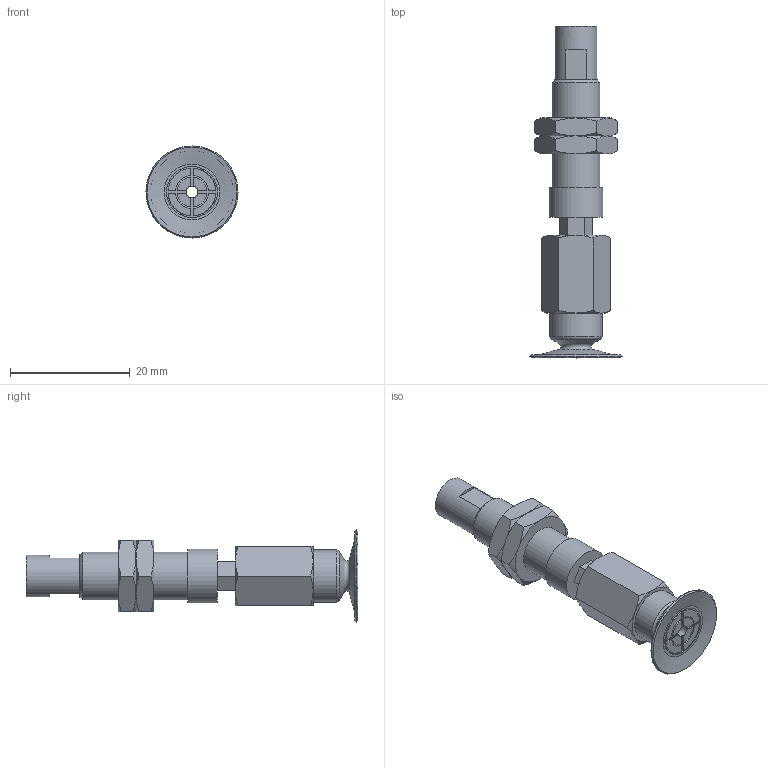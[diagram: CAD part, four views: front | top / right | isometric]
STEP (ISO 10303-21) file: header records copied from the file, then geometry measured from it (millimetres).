
FILE_DESCRIPTION(('STEP AP203'),'1');
FILE_NAME('.stp','2025-08-21T08:00:31',(' '),(' '),'Spatial InterOp 3D',' ',' ');
FILE_SCHEMA(('CONFIG_CONTROL_DESIGN'));
Length unit declared in the file: millimetre
Products named in the file (6): BNABPATH-15B-3-※; NAPATH-10A-3--F; Nut-10A-S; BPAG-15B-※; ADAPTER; NAPATH-10A-3--M
Assembly tree (6 placements, depth 2):
  BNABPATH-15B-3-※
    NAPATH-10A-3--F
    Nut-10A-S  x2
    BPAG-15B-※
    ADAPTER
    NAPATH-10A-3--M
Bounding box: 15.4 x 55.5 x 15.4 mm (x, y, z)
Volume: 3405.3 mm3; surface area: 4193.9 mm2
Topology: 6 solids, 6 shells, 165 faces, 375 edges, 229 vertices
Faces by surface type: plane 73, cone 55, cylinder 27, torus 10
Full cylindrical faces by diameter (mm): 2 x3, 4 x2, 4.134 x1, 6 x2, 7 x1, 7.188 x2, 8 x1, 8.5 x1, 8.7 x1, 9 x1
Entity records: 4264 total; most frequent: CARTESIAN_POINT 988, DIRECTION 618, ORIENTED_EDGE 564, EDGE_CURVE 282, AXIS2_PLACEMENT_3D 250, EDGE_LOOP 192, VERTEX_POINT 190, FACE_OUTER_BOUND 166
